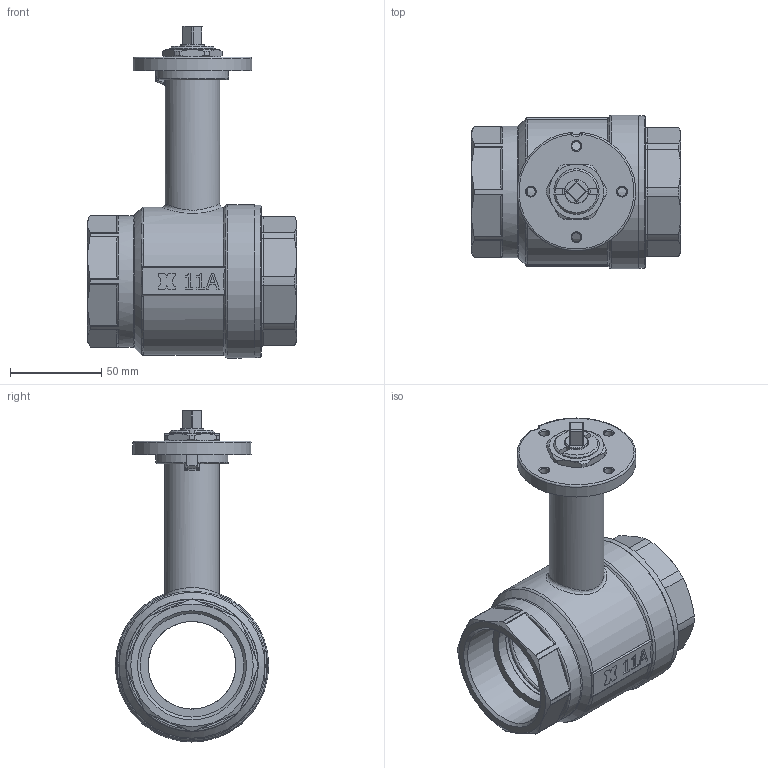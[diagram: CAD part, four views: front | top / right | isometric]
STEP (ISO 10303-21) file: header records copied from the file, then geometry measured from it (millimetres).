
FILE_DESCRIPTION((''),'2;1');
FILE_NAME('C:\Documents and Settings\ut4\Desktop\TICOM ULTIMATE\Valvola a sfera mot. 002 art.109 PM SM.stp','2012-07-16T16:35:25',('ut4'),(''),'Autodesk Inventor 2013','Autodesk Inventor 2013','');
FILE_SCHEMA(('AUTOMOTIVE_DESIGN { 1 0 10303 214 1 1 1 1 }'));
Length unit declared in the file: millimetre
Products named in the file (14): Valvola a sfera mot. 002 art.109 PM SM; sfera 002; O-ring 53.64 x 2; Dischetto portamotore SM Ø25 lav; Dado blocca piastra SM3; Anello antigrip. perno mot. Ø20; Boccola antigrip. perno mot. Ø20; O-ring 15.08 x 2; Sede 002; Manicotto deviatore 002 motorizzato; Corpo prolunga mot. 002; Perno mot. prolunga lungo 20 q8; Tubetto prolunga mot; Ghiera ferma asta mot. 25 prolunga
Assembly tree (17 placements, depth 2):
  Valvola a sfera mot. 002 art.109 PM SM
    sfera 002
    O-ring 53.64 x 2  x2
    Dischetto portamotore SM Ø25 lav
    Dado blocca piastra SM3
    Anello antigrip. perno mot. Ø20
    Boccola antigrip. perno mot. Ø20  x2
    O-ring 15.08 x 2  x2
    Sede 002  x2
    Manicotto deviatore 002 motorizzato
    Corpo prolunga mot. 002
    Perno mot. prolunga lungo 20 q8
    Tubetto prolunga mot
    Ghiera ferma asta mot. 25 prolunga
Bounding box: 114.45 x 84 x 181.75 mm (x, y, z)
Volume: 339494.6 mm3; surface area: 144954.8 mm2
Topology: 17 solids, 17 shells, 591 faces, 1440 edges, 893 vertices
Faces by surface type: plane 239, cylinder 169, torus 68, cone 57, bspline 39, sphere 19
Full cylindrical faces by diameter (mm): 4.917 x4, 13 x1, 13.2 x3, 14.8 x2, 15 x2, 16 x1, 16.1 x2, 16.3 x2, 19.9 x3, 20 x4, 20.1 x1, 23 x1, 23.3 x1, 23.5 x2, 25 x2, 30 x1, 48 x5, 53.6 x2, 56.66 x1, 56.7 x1, 59 x4, 66 x1, 72 x1, 74.5 x1, 76 x1, 76.8 x1, 83.5 x1, 84 x1
Entity records: 17998 total; most frequent: CARTESIAN_POINT 4464, DIRECTION 2638, ORIENTED_EDGE 2554, EDGE_CURVE 1277, AXIS2_PLACEMENT_3D 1031, VERTEX_POINT 851, EDGE_LOOP 726, VECTOR 576
